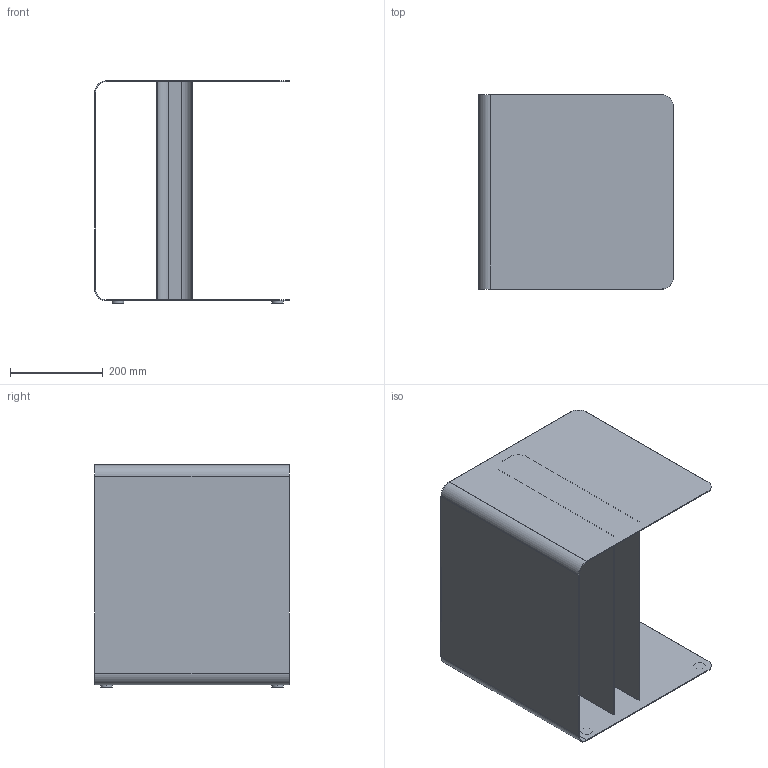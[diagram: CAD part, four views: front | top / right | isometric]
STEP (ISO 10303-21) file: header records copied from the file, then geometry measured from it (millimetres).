
FILE_DESCRIPTION (( 'STEP AP214' ), '1' );
FILE_NAME ('BEND_H 475_20231025.STEP', '2023-10-25T08:53:28', ( '' ), ( '' ), 'SwSTEP 2.0', 'SolidWorks 2021', '' );
FILE_SCHEMA (( 'AUTOMOTIVE_DESIGN' ));
Length unit declared in the file: millimetre
Products named in the file (1): BEND_H 475_20231025
Bounding box: 420 x 420 x 480 mm (x, y, z)
Volume: 1840766.6 mm3; surface area: 1848263.3 mm2
Topology: 6 solids, 6 shells, 48 faces, 108 edges, 72 vertices
Faces by surface type: plane 28, cylinder 20
Entity records: 1431 total; most frequent: DIRECTION 246, CARTESIAN_POINT 229, ORIENTED_EDGE 216, EDGE_CURVE 108, AXIS2_PLACEMENT_3D 89, VERTEX_POINT 72, VECTOR 68, LINE 68
